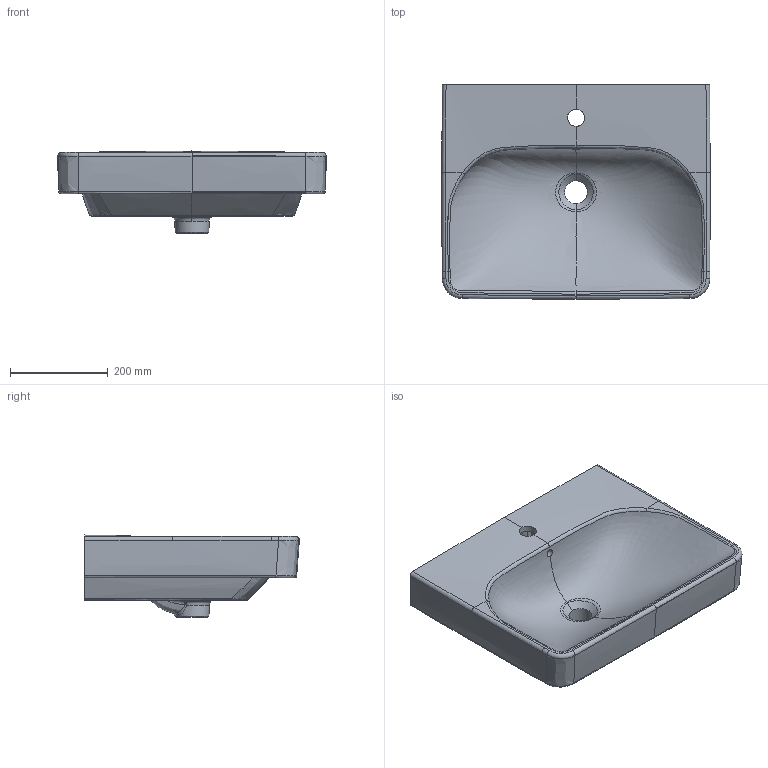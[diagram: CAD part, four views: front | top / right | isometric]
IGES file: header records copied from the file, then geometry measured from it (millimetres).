
Global section: file name: 500259; native system: Autodesk Inventor 2018; preprocessor: unknown; author: JANAN; organization: Unknown; date: 20200430.092028; units: millimetre
Bounding box: 549.96 x 439.75 x 168 mm (x, y, z)
Volume: 12869332.6 mm3; surface area: 830120.1 mm2
Topology: 1 solids, 1 shells, 313 faces, 756 edges, 436 vertices
Faces by surface type: bspline 313
